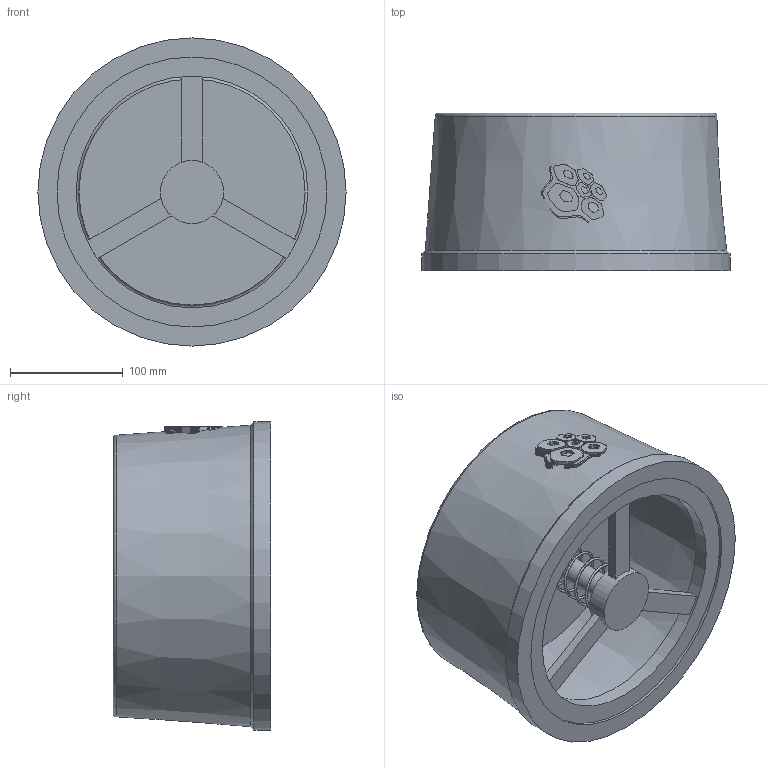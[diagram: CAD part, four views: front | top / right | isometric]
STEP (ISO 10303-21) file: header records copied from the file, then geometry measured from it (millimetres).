
FILE_DESCRIPTION(('STEP AP203'), '1');
FILE_NAME('3D_404-200-40', '', ('UNSPECIFIED'), ('UNSPECIFIED'), 'C3D Converter', 'C3D Toolkit', '');
FILE_SCHEMA(('CONFIG_CONTROL_DESIGN'));
Length unit declared in the file: millimetre
Bounding box: 274 x 140 x 274 mm (x, y, z)
Volume: 1914876.6 mm3; surface area: 408510.5 mm2
Topology: 1 solids, 1 shells, 865 faces, 2536 edges, 1695 vertices
Faces by surface type: plane 844, cone 9, cylinder 8, torus 3, bspline 1
Full cylindrical faces by diameter (mm): 22 x1, 56 x1, 185 x1, 201 x1, 206 x1, 240 x2, 274 x1
Entity records: 40085 total; most frequent: CARTESIAN_POINT 11730, ORIENTED_EDGE 5040, DIRECTION 3497, EDGE_CURVE 2520, VERTEX_POINT 1694, LINE 1663, VECTOR 1663, AXIS2_PLACEMENT_3D 917
